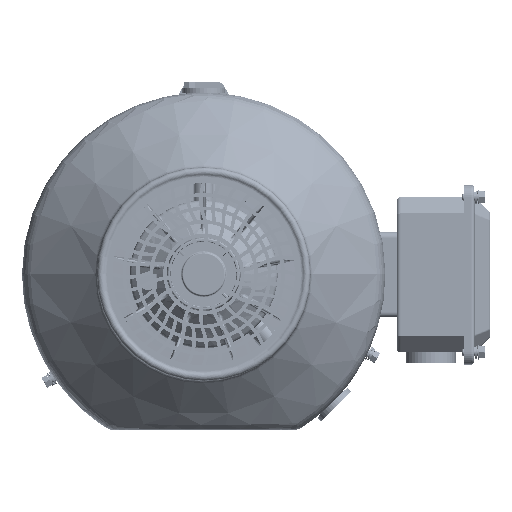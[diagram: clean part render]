
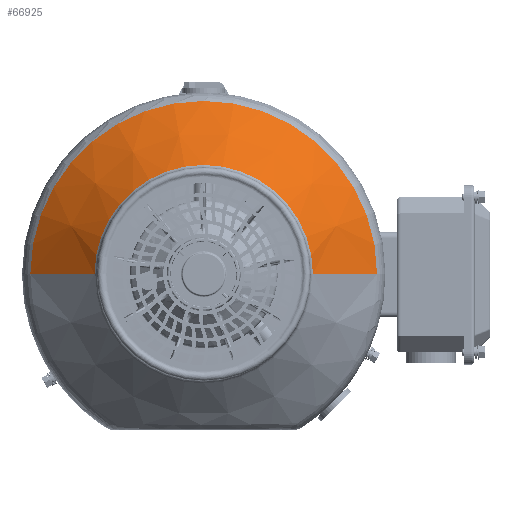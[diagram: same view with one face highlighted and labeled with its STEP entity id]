
A CAD part, top view. The second image highlights one B-rep face of the part: STEP entity #66925.
In plain terms, the highlighted conical face has half-angle 45 degrees and reference radius 76.757 mm.
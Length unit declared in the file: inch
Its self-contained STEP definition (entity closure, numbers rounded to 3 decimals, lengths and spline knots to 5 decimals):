
#569 = CARTESIAN_POINT ( 'NONE',  ( -3.02194, 0., 4.01546 ) ) ;
#1298 = CARTESIAN_POINT ( 'NONE',  ( 3.02194, 0., 4.01546 ) ) ;
#6891 = VERTEX_POINT ( 'NONE', #114541 ) ;
#11402 = DIRECTION ( 'NONE',  ( -1., 0., 0. ) ) ;
#16164 = LINE ( 'NONE', #223778, #123538 ) ;
#36253 = EDGE_CURVE ( 'NONE', #6891, #197733, #135344, .T. ) ;
#39046 = DIRECTION ( 'NONE',  ( -0.707, 0., -0.707 ) ) ;
#41104 = CARTESIAN_POINT ( 'NONE',  ( 0., 0., 4.01546 ) ) ;
#41192 = FACE_OUTER_BOUND ( 'NONE', #61764, .T. ) ;
#53858 = ORIENTED_EDGE ( 'NONE', *, *, #36253, .F. ) ;
#58004 = VERTEX_POINT ( 'NONE', #239749 ) ;
#61764 = EDGE_LOOP ( 'NONE', ( #92976, #72091, #156751, #53858 ) ) ;
#64859 = AXIS2_PLACEMENT_3D ( 'NONE', #41104, #120504, #234690 ) ;
#66925 = ADVANCED_FACE ( 'NONE', ( #41192 ), #187553, .T. ) ;
#72091 = ORIENTED_EDGE ( 'NONE', *, *, #238383, .T. ) ;
#75376 = CIRCLE ( 'NONE', #104534, 3.02194 ) ;
#86709 = CARTESIAN_POINT ( 'NONE',  ( 0., 0., 2.24047 ) ) ;
#92976 = ORIENTED_EDGE ( 'NONE', *, *, #205369, .T. ) ;
#97616 = AXIS2_PLACEMENT_3D ( 'NONE', #86709, #201073, #11402 ) ;
#100583 = DIRECTION ( 'NONE',  ( -1., 0., 0. ) ) ;
#101392 = CARTESIAN_POINT ( 'NONE',  ( 0., 0., 4.01546 ) ) ;
#104534 = AXIS2_PLACEMENT_3D ( 'NONE', #101392, #234790, #100583 ) ;
#114541 = CARTESIAN_POINT ( 'NONE',  ( -3.02194, 0., 4.01546 ) ) ;
#119734 = VERTEX_POINT ( 'NONE', #1298 ) ;
#120504 = DIRECTION ( 'NONE',  ( 0., 0., -1. ) ) ;
#123538 = VECTOR ( 'NONE', #203033, 39.37008 ) ;
#125611 = EDGE_CURVE ( 'NONE', #197733, #58004, #171403, .T. ) ;
#133395 = CARTESIAN_POINT ( 'NONE',  ( -4.79693, 0., 2.24047 ) ) ;
#135344 = LINE ( 'NONE', #569, #203978 ) ;
#156751 = ORIENTED_EDGE ( 'NONE', *, *, #125611, .F. ) ;
#171403 = CIRCLE ( 'NONE', #97616, 4.79693 ) ;
#187553 = CONICAL_SURFACE ( 'NONE', #64859, 3.02194, 0.785 ) ;
#197733 = VERTEX_POINT ( 'NONE', #133395 ) ;
#201073 = DIRECTION ( 'NONE',  ( 0., 0., -1. ) ) ;
#203033 = DIRECTION ( 'NONE',  ( 0.707, 0., -0.707 ) ) ;
#203978 = VECTOR ( 'NONE', #39046, 39.37008 ) ;
#205369 = EDGE_CURVE ( 'NONE', #6891, #119734, #75376, .T. ) ;
#223778 = CARTESIAN_POINT ( 'NONE',  ( 3.02194, 0., 4.01546 ) ) ;
#234690 = DIRECTION ( 'NONE',  ( -1., 0., 0. ) ) ;
#234790 = DIRECTION ( 'NONE',  ( 0., 0., -1. ) ) ;
#238383 = EDGE_CURVE ( 'NONE', #119734, #58004, #16164, .T. ) ;
#239749 = CARTESIAN_POINT ( 'NONE',  ( 4.79693, 0., 2.24047 ) ) ;
